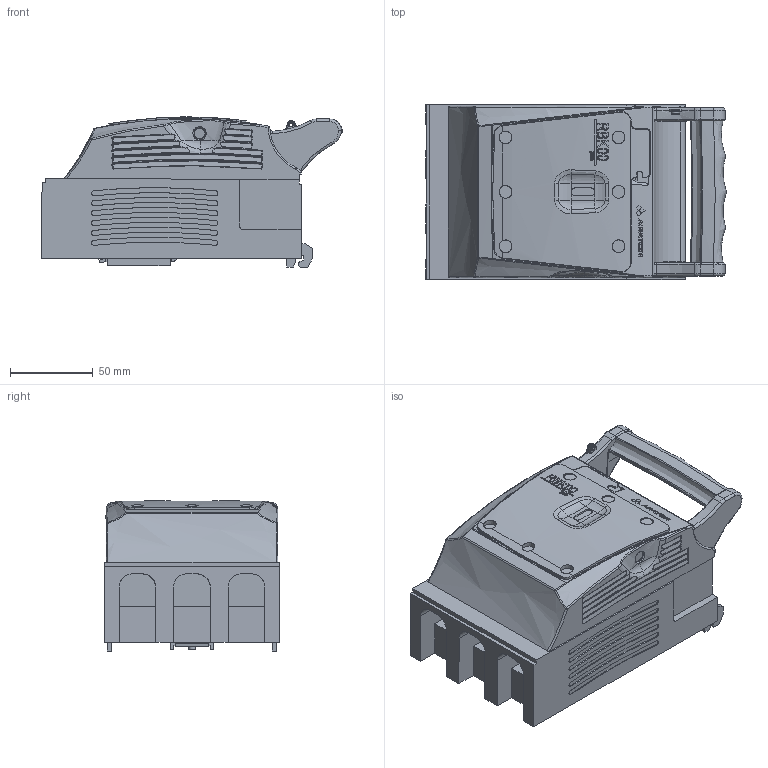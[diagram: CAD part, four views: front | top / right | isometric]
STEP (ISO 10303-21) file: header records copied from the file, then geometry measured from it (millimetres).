
FILE_DESCRIPTION(/* description */ (''),/* implementation_level */ '2;1');
FILE_NAME(/* name */ 'RBK 00 pro-E-125mm.stp',/* time_stamp */ '2019-03-12T15:46:23+01:00',/* author */ (''),/* organization */ (''),/* preprocessor_version */ 'ST-DEVELOPER v16',/* originating_system */ 'SIEMENS PLM Software NX 10.0',/* authorisation */ '');
FILE_SCHEMA (('AUTOMOTIVE_DESIGN { 1 0 10303 214 3 1 1 1 }'));
Products named in the file (1): 710_2B44DAB98rpn
Bounding box: 182.22 x 106 x 90.97 mm (x, y, z)
Volume: 1143662.8 mm3; surface area: 99778.4 mm2
Topology: 1 solids, 4 shells, 1498 faces, 4157 edges, 2713 vertices
Faces by surface type: plane 900, bspline 230, cylinder 142, cone 103, extrusion 62, torus 37, sphere 18, revolution 6
Full cylindrical faces by diameter (mm): 2.2 x1, 3.3 x1, 4 x2, 5.2 x4, 6.6 x1
Entity records: 71223 total; most frequent: CARTESIAN_POINT 29597, ORIENTED_EDGE 8204, DIRECTION 7557, EDGE_CURVE 4102, AXIS2_PLACEMENT_3D 2934, VERTEX_POINT 2701, VECTOR 1683, LINE 1621
